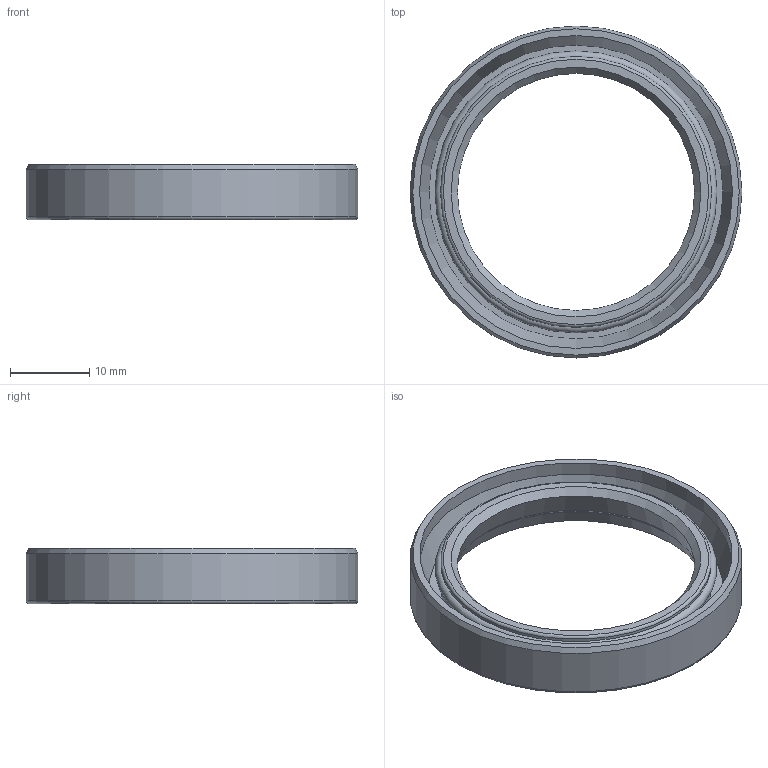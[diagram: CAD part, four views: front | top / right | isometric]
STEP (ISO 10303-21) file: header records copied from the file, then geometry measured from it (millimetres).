
FILE_DESCRIPTION(/* description */ ('오일 실 - 스프링 장착, 금속 케이스 SM'),/* implementation_level */ '2;1');
FILE_NAME(/* name */ '',/* time_stamp */ '2025-05-23T15:42:13+09:00',/* author */ ('jhkim'),/* organization */ (''),/* preprocessor_version */ 'ST-DEVELOPER v20.1',/* originating_system */ 'Autodesk Inventor 2026',/* authorisation */ '');
FILE_SCHEMA (('AUTOMOTIVE_DESIGN { 1 0 10303 214 3 1 1 }'));
Length unit declared in the file: millimetre
Products named in the file (1): 오일 실 30 42 7
Bounding box: 42 x 42 x 7 mm (x, y, z)
Volume: 2721.6 mm3; surface area: 3698.5 mm2
Topology: 1 solids, 1 shells, 18 faces, 33 edges, 19 vertices
Faces by surface type: cone 6, cylinder 4, plane 4, torus 4
Full cylindrical faces by diameter (mm): 34.282 x2, 39.6 x1, 42 x1
Entity records: 495 total; most frequent: DIRECTION 94, CARTESIAN_POINT 71, ORIENTED_EDGE 66, AXIS2_PLACEMENT_3D 42, EDGE_CURVE 33, CIRCLE 23, EDGE_LOOP 22, VERTEX_POINT 19
